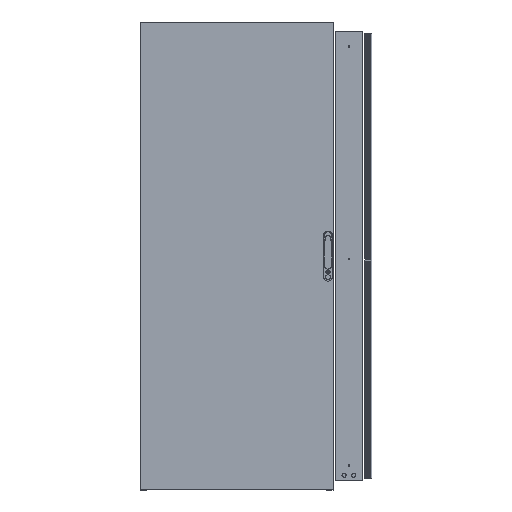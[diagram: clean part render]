
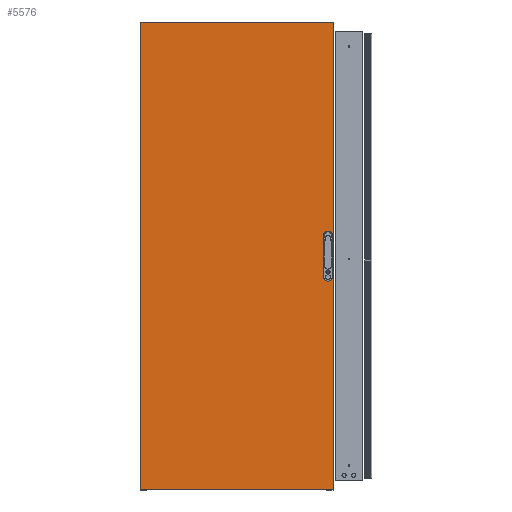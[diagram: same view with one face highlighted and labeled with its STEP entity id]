
A CAD part, top view. The second image highlights one B-rep face of the part: STEP entity #5576.
In plain terms, the highlighted planar face has unit normal (0, 0, 1).
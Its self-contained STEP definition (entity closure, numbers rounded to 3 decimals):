
#4419=DIRECTION('',(1.,0.,0.));
#4420=VECTOR('',#4419,794.);
#4421=CARTESIAN_POINT('',(0.,0.,37.2));
#4422=LINE('',#4421,#4420);
#4426=DIRECTION('',(0.,-1.,0.));
#4427=VECTOR('',#4426,1925.);
#4428=CARTESIAN_POINT('',(0.,1925.,37.2));
#4429=LINE('',#4428,#4427);
#4433=DIRECTION('',(-1.,0.,0.));
#4434=VECTOR('',#4433,794.);
#4435=CARTESIAN_POINT('',(794.,1925.,37.2));
#4436=LINE('',#4435,#4434);
#4440=DIRECTION('',(0.,1.,0.));
#4441=VECTOR('',#4440,1925.);
#4442=CARTESIAN_POINT('',(794.,0.,37.2));
#4443=LINE('',#4442,#4441);
#4447=DIRECTION('',(-0.134,0.991,0.));
#4448=VECTOR('',#4447,39.104);
#4449=CARTESIAN_POINT('',(786.,1019.5,37.2));
#4450=LINE('',#4449,#4448);
#4454=DIRECTION('',(-1.,0.,0.));
#4455=VECTOR('',#4454,16.5);
#4456=CARTESIAN_POINT('',(780.75,1058.25,37.2));
#4457=LINE('',#4456,#4455);
#4461=DIRECTION('',(-0.134,-0.991,0.));
#4462=VECTOR('',#4461,39.104);
#4463=CARTESIAN_POINT('',(764.25,1058.25,37.2));
#4464=LINE('',#4463,#4462);
#4468=DIRECTION('',(0.,-1.,0.));
#4469=VECTOR('',#4468,114.);
#4470=CARTESIAN_POINT('',(759.,1019.5,37.2));
#4471=LINE('',#4470,#4469);
#4475=DIRECTION('',(0.134,-0.991,0.));
#4476=VECTOR('',#4475,39.104);
#4477=CARTESIAN_POINT('',(759.,905.5,37.2));
#4478=LINE('',#4477,#4476);
#4482=DIRECTION('',(1.,0.,0.));
#4483=VECTOR('',#4482,16.5);
#4484=CARTESIAN_POINT('',(764.25,866.75,37.2));
#4485=LINE('',#4484,#4483);
#4489=DIRECTION('',(0.134,0.991,0.));
#4490=VECTOR('',#4489,39.104);
#4491=CARTESIAN_POINT('',(780.75,866.75,37.2));
#4492=LINE('',#4491,#4490);
#4496=DIRECTION('',(0.,1.,0.));
#4497=VECTOR('',#4496,114.);
#4498=CARTESIAN_POINT('',(786.,905.5,37.2));
#4499=LINE('',#4498,#4497);
#4773=CARTESIAN_POINT('',(0.,0.,37.2));
#4774=CARTESIAN_POINT('',(794.,0.,37.2));
#4775=VERTEX_POINT('',#4773);
#4776=VERTEX_POINT('',#4774);
#4777=CARTESIAN_POINT('',(794.,1925.,37.2));
#4778=VERTEX_POINT('',#4777);
#4779=CARTESIAN_POINT('',(0.,1925.,37.2));
#4780=VERTEX_POINT('',#4779);
#4785=CARTESIAN_POINT('',(786.,1019.5,37.2));
#4786=CARTESIAN_POINT('',(780.75,1058.25,37.2));
#4787=VERTEX_POINT('',#4785);
#4788=VERTEX_POINT('',#4786);
#4789=CARTESIAN_POINT('',(764.25,1058.25,37.2));
#4790=VERTEX_POINT('',#4789);
#4791=CARTESIAN_POINT('',(759.,1019.5,37.2));
#4792=VERTEX_POINT('',#4791);
#4793=CARTESIAN_POINT('',(759.,905.5,37.2));
#4794=VERTEX_POINT('',#4793);
#4795=CARTESIAN_POINT('',(764.25,866.75,37.2));
#4796=VERTEX_POINT('',#4795);
#4797=CARTESIAN_POINT('',(780.75,866.75,37.2));
#4798=VERTEX_POINT('',#4797);
#4799=CARTESIAN_POINT('',(786.,905.5,37.2));
#4800=VERTEX_POINT('',#4799);
#5546=CARTESIAN_POINT('',(0.,0.,37.2));
#5547=DIRECTION('',(0.,0.,1.));
#5548=DIRECTION('',(1.,0.,0.));
#5549=AXIS2_PLACEMENT_3D('',#5546,#5547,#5548);
#5550=PLANE('',#5549);
#5551=ORIENTED_EDGE('',*,*,#5450,.F.);
#5553=ORIENTED_EDGE('',*,*,#5552,.F.);
#5554=ORIENTED_EDGE('',*,*,#5511,.F.);
#5555=ORIENTED_EDGE('',*,*,#5540,.F.);
#5556=EDGE_LOOP('',(#5551,#5553,#5554,#5555));
#5557=FACE_OUTER_BOUND('',#5556,.F.);
#5559=ORIENTED_EDGE('',*,*,#5558,.T.);
#5561=ORIENTED_EDGE('',*,*,#5560,.T.);
#5563=ORIENTED_EDGE('',*,*,#5562,.T.);
#5565=ORIENTED_EDGE('',*,*,#5564,.T.);
#5567=ORIENTED_EDGE('',*,*,#5566,.T.);
#5569=ORIENTED_EDGE('',*,*,#5568,.T.);
#5571=ORIENTED_EDGE('',*,*,#5570,.T.);
#5573=ORIENTED_EDGE('',*,*,#5572,.T.);
#5574=EDGE_LOOP('',(#5559,#5561,#5563,#5565,#5567,#5569,#5571,#5573));
#5575=FACE_BOUND('',#5574,.F.);
#5450=EDGE_CURVE('',#4775,#4776,#4422,.T.);
#5511=EDGE_CURVE('',#4778,#4780,#4436,.T.);
#5540=EDGE_CURVE('',#4776,#4778,#4443,.T.);
#5552=EDGE_CURVE('',#4780,#4775,#4429,.T.);
#5558=EDGE_CURVE('',#4787,#4788,#4450,.T.);
#5560=EDGE_CURVE('',#4788,#4790,#4457,.T.);
#5562=EDGE_CURVE('',#4790,#4792,#4464,.T.);
#5564=EDGE_CURVE('',#4792,#4794,#4471,.T.);
#5566=EDGE_CURVE('',#4794,#4796,#4478,.T.);
#5568=EDGE_CURVE('',#4796,#4798,#4485,.T.);
#5570=EDGE_CURVE('',#4798,#4800,#4492,.T.);
#5572=EDGE_CURVE('',#4800,#4787,#4499,.T.);
#5576=ADVANCED_FACE('',(#5557,#5575),#5550,.T.);
